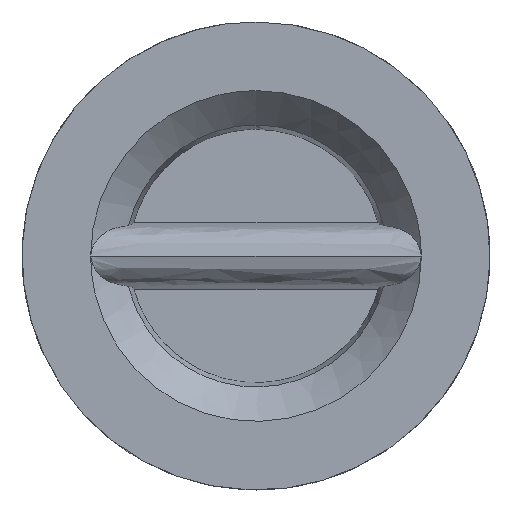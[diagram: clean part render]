
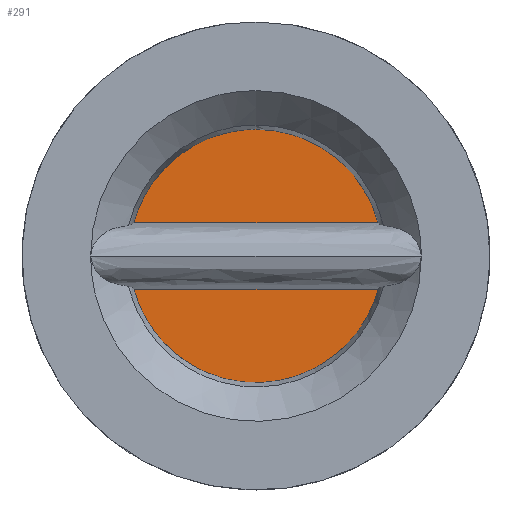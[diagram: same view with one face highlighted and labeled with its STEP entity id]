
A CAD part, left-side view. The second image highlights one B-rep face of the part: STEP entity #291.
In plain terms, the highlighted planar face has unit normal (-1, 0, 0).
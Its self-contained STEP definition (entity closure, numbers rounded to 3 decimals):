
#291=ADVANCED_FACE('',(#8679,#8681),#8683,.T.);
#8679=FACE_BOUND('',#8680,.T.);
#8680=EDGE_LOOP('',(#14824));
#8681=FACE_BOUND('',#8682,.T.);
#8682=EDGE_LOOP('',(#14825));
#8683=PLANE('',#8684);
#8684=AXIS2_PLACEMENT_3D('',#8685,#8686,#8687);
#8685=CARTESIAN_POINT('',(2986.657,1581.317,41.5));
#8686=DIRECTION('',(-1.,0.,0.));
#8687=DIRECTION('',(0.,-1.,0.));
#14824=ORIENTED_EDGE('',*,*,#19901,.F.);
#14825=ORIENTED_EDGE('',*,*,#19900,.T.);
#19900=EDGE_CURVE('',#22560,#22560,#22561,.T.);
#19901=EDGE_CURVE('',#22562,#22562,#22563,.T.);
#22560=VERTEX_POINT('',#31967);
#22561=CIRCLE('',#31968,8.8);
#22562=VERTEX_POINT('',#31972);
#22563=CIRCLE('',#31973,41.5);
#31967=CARTESIAN_POINT('',(2986.657,1581.317,-8.8));
#31968=AXIS2_PLACEMENT_3D('',#31969,#31970,#31971);
#31969=CARTESIAN_POINT('',(2986.657,1581.317,0.));
#31970=DIRECTION('',(1.,0.,0.));
#31971=DIRECTION('',(0.,0.,1.));
#31972=CARTESIAN_POINT('',(2986.657,1581.317,-41.5));
#31973=AXIS2_PLACEMENT_3D('',#31974,#31975,#31976);
#31974=CARTESIAN_POINT('',(2986.657,1581.317,0.));
#31975=DIRECTION('',(1.,0.,0.));
#31976=DIRECTION('',(0.,0.,1.));
